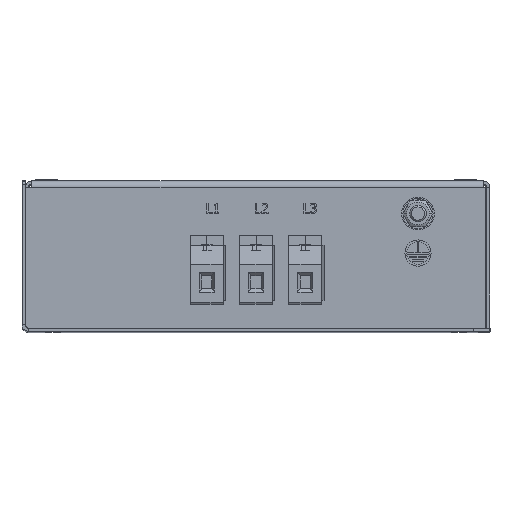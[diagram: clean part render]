
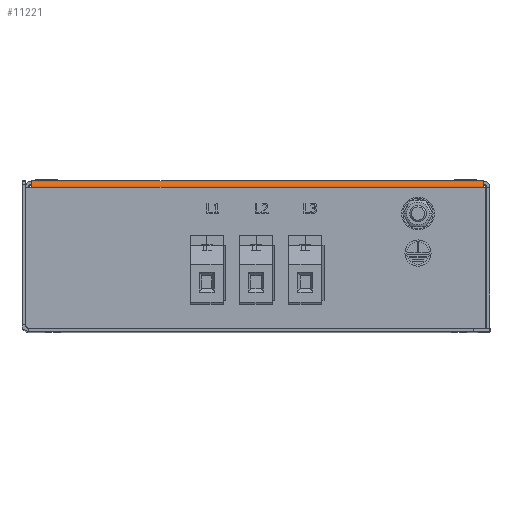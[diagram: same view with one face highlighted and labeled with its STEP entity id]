
A CAD part, top view. The second image highlights one B-rep face of the part: STEP entity #11221.
In plain terms, the highlighted cylindrical face has radius 2 mm (diameter 4 mm), a partial arc.
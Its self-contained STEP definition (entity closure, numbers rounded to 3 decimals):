
#804 = VERTEX_POINT ( 'NONE', #5492 ) ;
#1790 = AXIS2_PLACEMENT_3D ( 'NONE', #23619, #10232, #6458 ) ;
#1807 = AXIS2_PLACEMENT_3D ( 'NONE', #2680, #10199, #4557 ) ;
#2119 = CARTESIAN_POINT ( 'NONE',  ( -106.5, 1., -2. ) ) ;
#2680 = CARTESIAN_POINT ( 'NONE',  ( -2., -1., -2. ) ) ;
#3084 = FACE_OUTER_BOUND ( 'NONE', #16651, .T. ) ;
#4081 = AXIS2_PLACEMENT_3D ( 'NONE', #20372, #20501, #14742 ) ;
#4557 = DIRECTION ( 'NONE',  ( 0., 1., 0. ) ) ;
#5236 = VERTEX_POINT ( 'NONE', #18538 ) ;
#5492 = CARTESIAN_POINT ( 'NONE',  ( -2., -1., 0. ) ) ;
#5527 = EDGE_CURVE ( 'NONE', #5974, #21870, #10436, .T. ) ;
#5686 = ORIENTED_EDGE ( 'NONE', *, *, #20154, .F. ) ;
#5974 = VERTEX_POINT ( 'NONE', #6282 ) ;
#6282 = CARTESIAN_POINT ( 'NONE',  ( -140., 1., -2. ) ) ;
#6458 = DIRECTION ( 'NONE',  ( 0., 1., 0. ) ) ;
#8784 = EDGE_CURVE ( 'NONE', #5974, #5236, #22061, .T. ) ;
#10199 = DIRECTION ( 'NONE',  ( 1., 0., 0. ) ) ;
#10232 = DIRECTION ( 'NONE',  ( 1., 0., 0. ) ) ;
#10436 = LINE ( 'NONE', #2119, #20425 ) ;
#11221 = ADVANCED_FACE ( 'NONE', ( #3084 ), #12109, .T. ) ;
#11658 = EDGE_CURVE ( 'NONE', #21870, #804, #20997, .T. ) ;
#12109 = CYLINDRICAL_SURFACE ( 'NONE', #1790, 2. ) ;
#12431 = DIRECTION ( 'NONE',  ( 1., 0., 0. ) ) ;
#12446 = LINE ( 'NONE', #16577, #21054 ) ;
#14742 = DIRECTION ( 'NONE',  ( 0., 1., 0. ) ) ;
#15847 = ORIENTED_EDGE ( 'NONE', *, *, #8784, .T. ) ;
#16577 = CARTESIAN_POINT ( 'NONE',  ( -71.815, -1., 0. ) ) ;
#16651 = EDGE_LOOP ( 'NONE', ( #15847, #5686, #16992, #24261 ) ) ;
#16992 = ORIENTED_EDGE ( 'NONE', *, *, #11658, .F. ) ;
#18210 = DIRECTION ( 'NONE',  ( -1., 0., 0. ) ) ;
#18538 = CARTESIAN_POINT ( 'NONE',  ( -140., -1., 0. ) ) ;
#20154 = EDGE_CURVE ( 'NONE', #804, #5236, #12446, .T. ) ;
#20372 = CARTESIAN_POINT ( 'NONE',  ( -140., -1., -2. ) ) ;
#20425 = VECTOR ( 'NONE', #12431, 1000. ) ;
#20501 = DIRECTION ( 'NONE',  ( 1., 0., 0. ) ) ;
#20553 = CARTESIAN_POINT ( 'NONE',  ( -2., 1., -2. ) ) ;
#20997 = CIRCLE ( 'NONE', #1807, 2. ) ;
#21054 = VECTOR ( 'NONE', #18210, 1000. ) ;
#21870 = VERTEX_POINT ( 'NONE', #20553 ) ;
#22061 = CIRCLE ( 'NONE', #4081, 2. ) ;
#23619 = CARTESIAN_POINT ( 'NONE',  ( -72., -1., -2. ) ) ;
#24261 = ORIENTED_EDGE ( 'NONE', *, *, #5527, .F. ) ;
